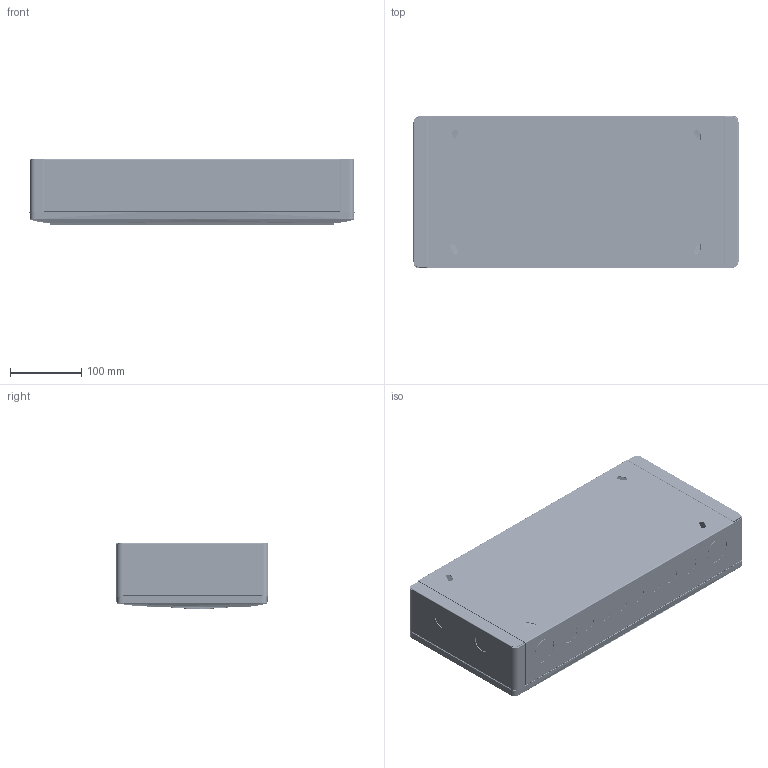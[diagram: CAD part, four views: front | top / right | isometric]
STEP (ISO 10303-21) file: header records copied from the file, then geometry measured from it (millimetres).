
FILE_DESCRIPTION (( 'STEP AP203' ), '1' );
FILE_NAME ('BEP-M120.STEP', '2024-05-15T08:13:53', ( '' ), ( '' ), 'SwSTEP 2.0', 'SolidWorks 2023', '' );
FILE_SCHEMA (( 'CONFIG_CONTROL_DESIGN' ));
Length unit declared in the file: millimetre
Products named in the file (24): T21N12; TD021-12; BEJL-R; BE(2016)-120DZ; G11-20; 铜条螺钉; M6接地螺钉套件; BE(2016)-120MB; BE焊箱支架-R; D02-12; BEP-M120; BENT3焊箱端子支架; HG031-120; 端子固定螺钉; 接地螺钉; H03-1L; BEP-M 107~120DX(CB); BEJL-L; BEP-M 120DX(ZT); T21P11; BE焊箱支架-L; BEP-M 120DX; BE(2016)-120HDM; H03-1R
Assembly tree (46 placements, depth 4):
  BEP-M120
    BEP-M 120DX
      BEP-M 120DX(ZT)
      BEP-M 107~120DX(CB)  x2
      M6接地螺钉套件
        接地螺钉
      BENT3焊箱端子支架
        BE焊箱支架-L
        BE焊箱支架-R
    TD021-12
      D02-12
      T21P11
      T21N12
      铜条螺钉  x23
      端子固定螺钉
    HG031-120
      H03-1L
      G11-20
      H03-1R
    BE(2016)-120MB
      BE(2016)-120DZ
      BE(2016)-120HDM
      BEJL-L
      BEJL-R
Bounding box: 455.95 x 214 x 92.42 mm (x, y, z)
Volume: 658186.8 mm3; surface area: 885288 mm2
Topology: 79 solids, 79 shells, 5477 faces, 14327 edges, 9245 vertices
Faces by surface type: plane 2560, cylinder 1768, bspline 672, torus 253, cone 200, sphere 24
Entity records: 185612 total; most frequent: CARTESIAN_POINT 89274, ORIENTED_EDGE 20666, DIRECTION 17391, EDGE_CURVE 10333, VERTEX_POINT 6636, VECTOR 5899, LINE 5899, AXIS2_PLACEMENT_3D 5746
